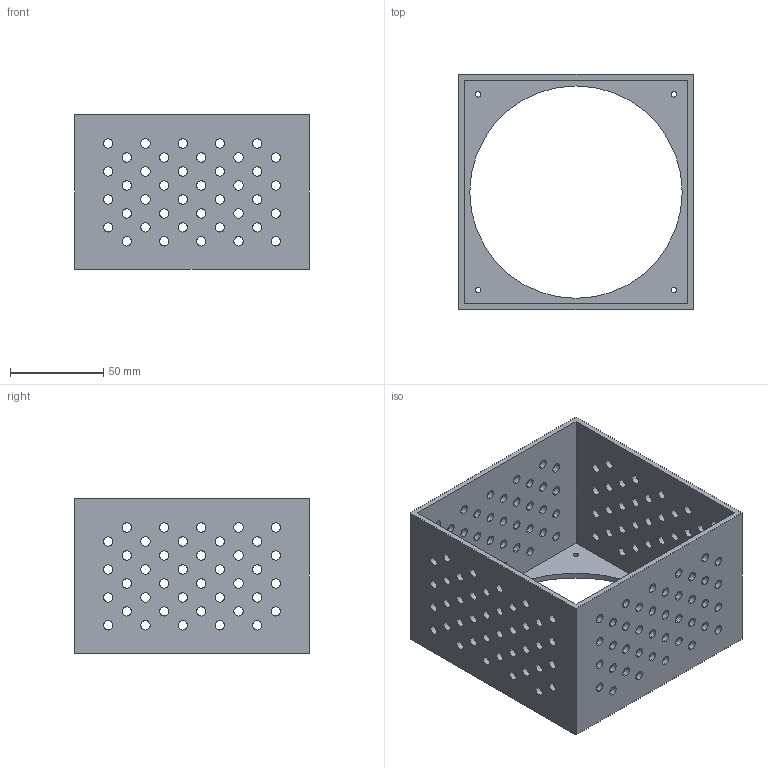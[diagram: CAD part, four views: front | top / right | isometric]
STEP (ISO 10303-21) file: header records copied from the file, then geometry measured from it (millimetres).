
FILE_DESCRIPTION (( 'STEP AP214' ), '1' );
FILE_NAME ('Korpus_120x120.STEP', '2021-02-11T10:05:31', ( '砐錪賧瘔蠈錪 Windows' ), ( '' ), 'SwSTEP 2.0', 'SolidWorks 2019', '' );
FILE_SCHEMA (( 'AUTOMOTIVE_DESIGN' ));
Length unit declared in the file: millimetre
Products named in the file (1): Korpus_120x120
Bounding box: 126 x 126 x 83 mm (x, y, z)
Volume: 125577.3 mm3; surface area: 93957.5 mm2
Topology: 1 solids, 1 shells, 341 faces, 1014 edges, 676 vertices
Faces by surface type: cylinder 330, plane 11
Entity records: 12542 total; most frequent: DIRECTION 2358, CARTESIAN_POINT 2032, ORIENTED_EDGE 2028, EDGE_CURVE 1014, AXIS2_PLACEMENT_3D 1002, VERTEX_POINT 676, EDGE_LOOP 672, CIRCLE 660
